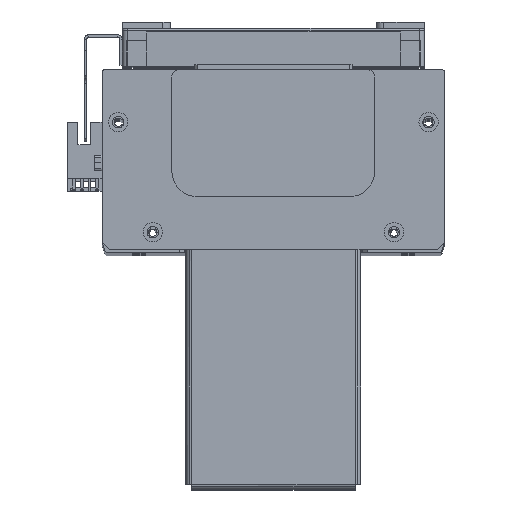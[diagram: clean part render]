
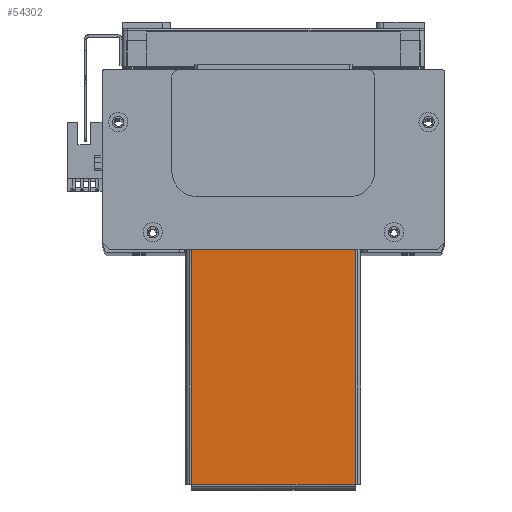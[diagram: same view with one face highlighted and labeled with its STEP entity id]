
A CAD part, top view. The second image highlights one B-rep face of the part: STEP entity #54302.
In plain terms, the highlighted planar face has unit normal (0, 0, 1) as drawn and (0, -1, 0) by its records, which use the part's own axes.
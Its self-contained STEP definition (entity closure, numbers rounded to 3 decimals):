
#20612 = LINE ( 'NONE', #23897, #20672 ) ;
#20636 = VECTOR ( 'NONE', #23849, 1000. ) ;
#20662 = LINE ( 'NONE', #23842, #20636 ) ;
#20672 = VECTOR ( 'NONE', #23898, 1000. ) ;
#20707 = LINE ( 'NONE', #23986, #20709 ) ;
#20709 = VECTOR ( 'NONE', #24006, 1000. ) ;
#20713 = VECTOR ( 'NONE', #23973, 1000. ) ;
#20720 = LINE ( 'NONE', #23978, #20713 ) ;
#22770 = CARTESIAN_POINT ( 'NONE',  ( 0., -1.5, 0. ) ) ;
#22780 = DIRECTION ( 'NONE',  ( 0., 1., 0. ) ) ;
#22798 = DIRECTION ( 'NONE',  ( 0., 0., 1. ) ) ;
#22810 = PLANE ( 'NONE',  #29784 ) ;
#23842 = CARTESIAN_POINT ( 'NONE',  ( 94.793, -1.5, 32.263 ) ) ;
#23849 = DIRECTION ( 'NONE',  ( -1., 0., 0. ) ) ;
#23897 = CARTESIAN_POINT ( 'NONE',  ( -2., -1.5, 34.5 ) ) ;
#23898 = DIRECTION ( 'NONE',  ( 0., 0., -1. ) ) ;
#23973 = DIRECTION ( 'NONE',  ( 0., 0., -1. ) ) ;
#23978 = CARTESIAN_POINT ( 'NONE',  ( -94.763, -1.5, 32.293 ) ) ;
#23986 = CARTESIAN_POINT ( 'NONE',  ( -94.793, -1.5, -32.263 ) ) ;
#24006 = DIRECTION ( 'NONE',  ( 1., 0., 0. ) ) ;
#25409 = ORIENTED_EDGE ( 'NONE', *, *, #50759, .T. ) ;
#25453 = ORIENTED_EDGE ( 'NONE', *, *, #50724, .F. ) ;
#25471 = ORIENTED_EDGE ( 'NONE', *, *, #50705, .T. ) ;
#25475 = ORIENTED_EDGE ( 'NONE', *, *, #50754, .T. ) ;
#28043 = EDGE_LOOP ( 'NONE', ( #25409, #25453, #25471, #25475 ) ) ;
#29784 = AXIS2_PLACEMENT_3D ( 'NONE', #22770, #22780, #22798 ) ;
#40688 = FACE_OUTER_BOUND ( 'NONE', #28043, .T. ) ;
#42053 = CARTESIAN_POINT ( 'NONE',  ( -94.763, -1.5, -32.263 ) ) ;
#42070 = CARTESIAN_POINT ( 'NONE',  ( -2., -1.5, 32.263 ) ) ;
#42114 = CARTESIAN_POINT ( 'NONE',  ( -94.763, -1.5, 32.263 ) ) ;
#42119 = CARTESIAN_POINT ( 'NONE',  ( -2., -1.5, -32.263 ) ) ;
#44030 = VERTEX_POINT ( 'NONE', #42053 ) ;
#44098 = VERTEX_POINT ( 'NONE', #42114 ) ;
#44111 = VERTEX_POINT ( 'NONE', #42119 ) ;
#44158 = VERTEX_POINT ( 'NONE', #42070 ) ;
#50705 = EDGE_CURVE ( 'NONE', #44158, #44098, #20662, .T. ) ;
#50724 = EDGE_CURVE ( 'NONE', #44158, #44111, #20612, .T. ) ;
#50754 = EDGE_CURVE ( 'NONE', #44098, #44030, #20720, .T. ) ;
#50759 = EDGE_CURVE ( 'NONE', #44030, #44111, #20707, .T. ) ;
#54302 = ADVANCED_FACE ( 'NONE', ( #40688 ), #22810, .F. ) ;
